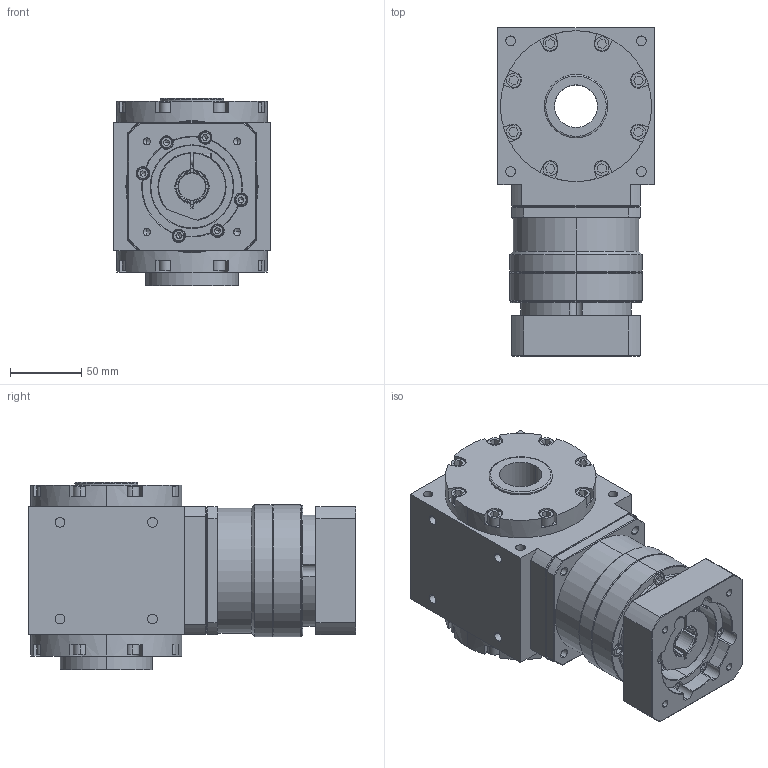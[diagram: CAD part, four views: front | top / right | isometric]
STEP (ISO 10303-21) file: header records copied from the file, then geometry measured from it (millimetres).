
FILE_DESCRIPTION (( 'STEP AP203' ), '1' );
FILE_NAME ('AAW110AS-L1-RF 19-70-90-M6.STEP', '2024-12-24T05:27:13', ( '' ), ( '' ), 'SwSTEP 2.0', 'SolidWorks 2021', '' );
FILE_SCHEMA (( 'CONFIG_CONTROL_DESIGN' ));
Length unit declared in the file: millimetre
Products named in the file (3): AAW110AS-RF; VRB-090-L1-S2-P1 19-70-90-M6; AAW110AS-L1-RF 19-70-90-M6
Assembly tree (2 placements, depth 2):
  AAW110AS-L1-RF 19-70-90-M6
    AAW110AS-RF
    VRB-090-L1-S2-P1 19-70-90-M6
Bounding box: 110 x 230.5 x 131.5 mm (x, y, z)
Volume: 1976890.2 mm3; surface area: 216755.1 mm2
Topology: 28 solids, 28 shells, 1083 faces, 2629 edges, 1660 vertices
Faces by surface type: plane 532, cylinder 374, cone 149, torus 26, bspline 2
Entity records: 32814 total; most frequent: CARTESIAN_POINT 6742, DIRECTION 5663, ORIENTED_EDGE 5154, EDGE_CURVE 2577, AXIS2_PLACEMENT_3D 2159, VERTEX_POINT 1660, VECTOR 1345, LINE 1345
